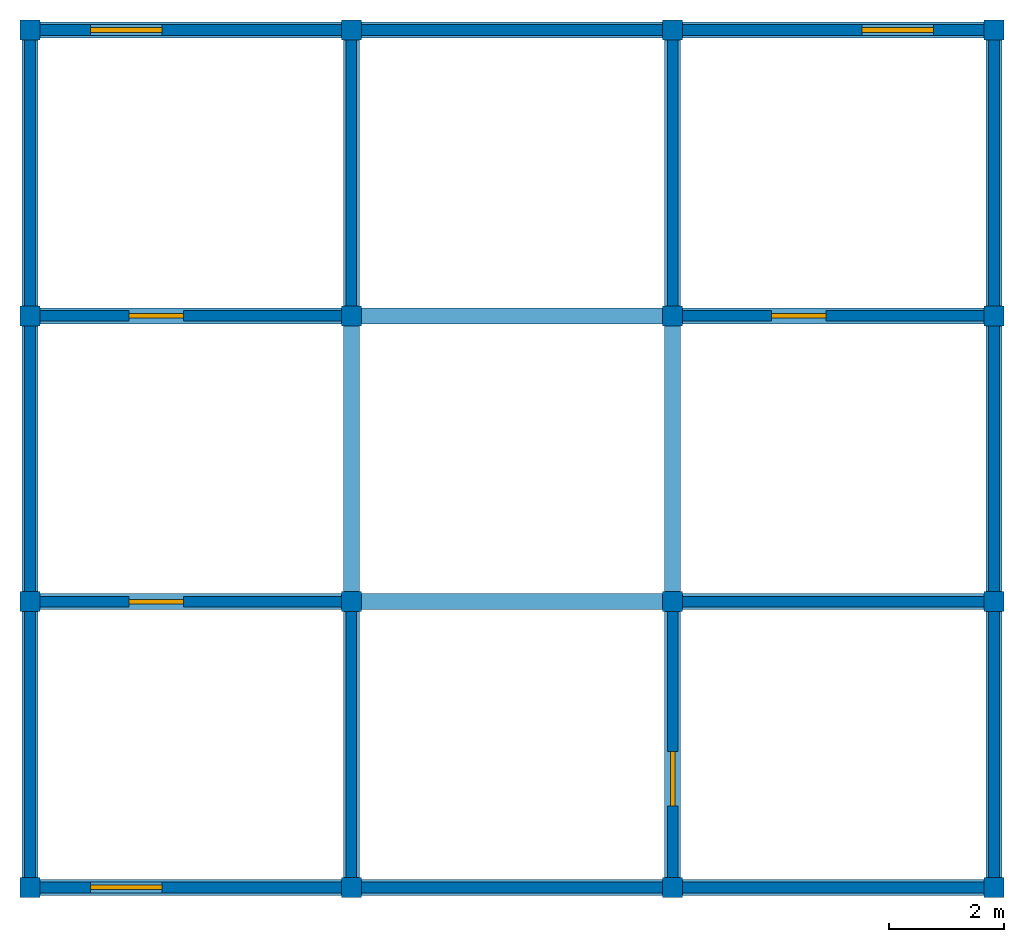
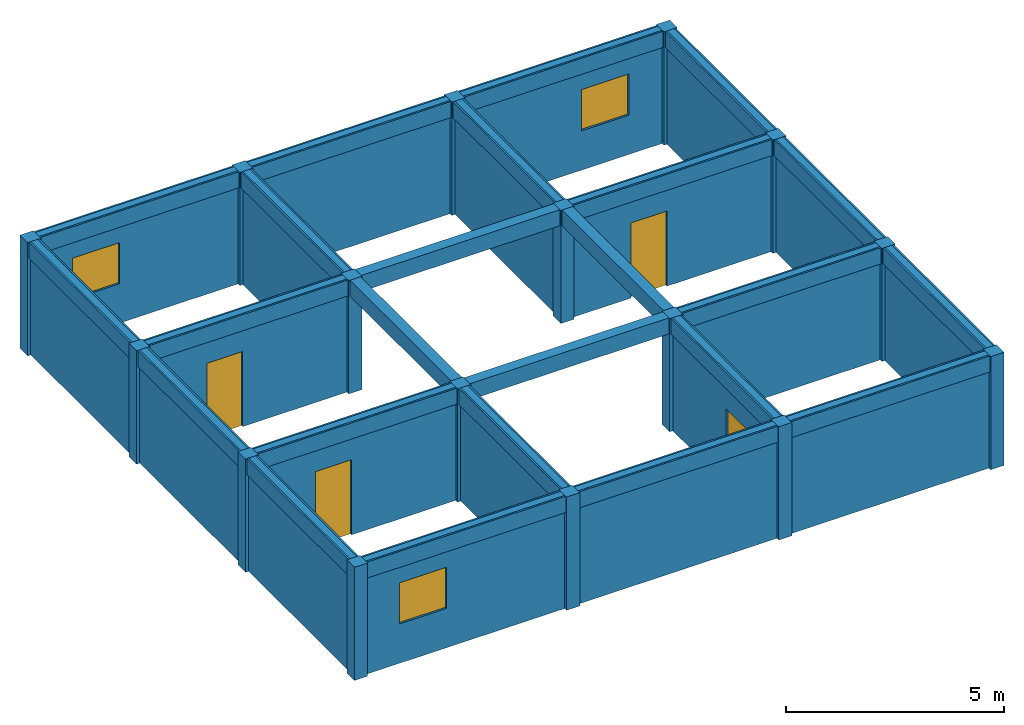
# One storey, incomplete: 24 beams, 20 walls, 16 columns, 4 doors, 3 windows, 7 openings.
"""IFC4X3 building model written with IfcOpenShell, lengths in metres."""

from ifc_helpers import new_model, si_unit, frame, origin_with_axes, origin_2d, place, context, project, spatial, rectangle, extrude, material, element, fill, save


model = new_model("IFC4X3")

# Units and contexts
model_context = context("Model", 3, precision=1e-05, world=origin_with_axes())
ifc_project = project(units=[si_unit("LENGTHUNIT", "METRE"), si_unit("AREAUNIT", "SQUARE_METRE"), si_unit("VOLUMEUNIT", "CUBIC_METRE")], contexts=[model_context])

# Site, building, storey
site = spatial("IfcSite", under=ifc_project, Name="Puerto Montt Parcel", CompositionType="ELEMENT")
building = spatial("IfcBuilding", under=site, Name="Apex Hub", CompositionType="ELEMENT")
storey = spatial("IfcBuildingStorey", under=building, Name="Level 7", CompositionType="ELEMENT")

# Columns
ifc_material_1 = material(Name="Timber")
column_1_placement = place(None, frame((-8.415, -7.485, 19.003), z_axis=(0.0, 0.0, 1.0), x_axis=(1.0, 0.0, 0.0)))
element("IfcColumn", 1, at=column_1_placement, inside=storey, material=ifc_material_1, Name="Column 7.1", ObjectType="Structural Column", PredefinedType="NOTDEFINED", context=model_context, shape_type="SweptSolid", body=[
    extrude(rectangle(XDim=0.35, YDim=0.35, at=origin_2d()), origin_with_axes(), (0.0, 0.0, 1.0), 3.167),
])
column_2_placement = place(None, frame((-8.415, -2.495, 19.003), z_axis=(0.0, 0.0, 1.0), x_axis=(1.0, 0.0, 0.0)))
element("IfcColumn", 2, at=column_2_placement, inside=storey, material=ifc_material_1, Name="Column 7.2", ObjectType="Facade Column", PredefinedType="NOTDEFINED", context=model_context, shape_type="SweptSolid", body=[
    extrude(rectangle(XDim=0.35, YDim=0.35, at=origin_2d()), origin_with_axes(), (0.0, 0.0, 1.0), 3.167),
])
column_3_placement = place(None, frame((-8.415, 2.495, 19.003), z_axis=(0.0, 0.0, 1.0), x_axis=(1.0, 0.0, 0.0)))
element("IfcColumn", 3, at=column_3_placement, inside=storey, material=ifc_material_1, Name="Column 7.3", ObjectType="Core Column", PredefinedType="NOTDEFINED", context=model_context, shape_type="SweptSolid", body=[
    extrude(rectangle(XDim=0.35, YDim=0.35, at=origin_2d()), origin_with_axes(), (0.0, 0.0, 1.0), 3.167),
])
column_4_placement = place(None, frame((-8.415, 7.485, 19.003), z_axis=(0.0, 0.0, 1.0), x_axis=(1.0, 0.0, 0.0)))
element("IfcColumn", 4, at=column_4_placement, inside=storey, material=ifc_material_1, Name="Column 7.4", ObjectType="Facade Column", PredefinedType="NOTDEFINED", context=model_context, shape_type="SweptSolid", body=[
    extrude(rectangle(XDim=0.35, YDim=0.35, at=origin_2d()), origin_with_axes(), (0.0, 0.0, 1.0), 3.167),
])
column_5_placement = place(None, frame((-2.805, -7.485, 19.003), z_axis=(0.0, 0.0, 1.0), x_axis=(1.0, 0.0, 0.0)))
element("IfcColumn", 5, at=column_5_placement, inside=storey, material=ifc_material_1, Name="Column 7.5", ObjectType="Facade Column", PredefinedType="COLUMN", context=model_context, shape_type="SweptSolid", body=[
    extrude(rectangle(XDim=0.35, YDim=0.35, at=origin_2d()), origin_with_axes(), (0.0, 0.0, 1.0), 3.167),
])
column_6_placement = place(None, frame((-2.805, -2.495, 19.003), z_axis=(0.0, 0.0, 1.0), x_axis=(1.0, 0.0, 0.0)))
element("IfcColumn", 6, at=column_6_placement, inside=storey, material=ifc_material_1, Name="Column 7.6", ObjectType="Core Column", PredefinedType="USERDEFINED", context=model_context, shape_type="SweptSolid", body=[
    extrude(rectangle(XDim=0.35, YDim=0.35, at=origin_2d()), origin_with_axes(), (0.0, 0.0, 1.0), 3.167),
])
column_7_placement = place(None, frame((-2.805, 2.495, 19.003), z_axis=(0.0, 0.0, 1.0), x_axis=(1.0, 0.0, 0.0)))
element("IfcColumn", 7, at=column_7_placement, inside=storey, material=ifc_material_1, Name="Column 7.7", ObjectType="Core Column", PredefinedType="COLUMN", context=model_context, shape_type="SweptSolid", body=[
    extrude(rectangle(XDim=0.35, YDim=0.35, at=origin_2d()), origin_with_axes(), (0.0, 0.0, 1.0), 3.167),
])
column_8_placement = place(None, frame((-2.805, 7.485, 19.003), z_axis=(0.0, 0.0, 1.0), x_axis=(1.0, 0.0, 0.0)))
element("IfcColumn", 8, at=column_8_placement, inside=storey, material=ifc_material_1, Name="Column 7.8", ObjectType="Facade Column", PredefinedType="COLUMN", context=model_context, shape_type="SweptSolid", body=[
    extrude(rectangle(XDim=0.35, YDim=0.35, at=origin_2d()), origin_with_axes(), (0.0, 0.0, 1.0), 3.167),
])
column_9_placement = place(None, frame((2.805, -7.485, 19.003), z_axis=(0.0, 0.0, 1.0), x_axis=(1.0, 0.0, 0.0)))
element("IfcColumn", 9, at=column_9_placement, inside=storey, material=ifc_material_1, Name="Column 7.9", ObjectType="Structural Column", PredefinedType="USERDEFINED", context=model_context, shape_type="SweptSolid", body=[
    extrude(rectangle(XDim=0.35, YDim=0.35, at=origin_2d()), origin_with_axes(), (0.0, 0.0, 1.0), 3.167),
])
column_10_placement = place(None, frame((2.805, -2.495, 19.003), z_axis=(0.0, 0.0, 1.0), x_axis=(1.0, 0.0, 0.0)))
element("IfcColumn", 10, at=column_10_placement, inside=storey, material=ifc_material_1, Name="Column 7.10", ObjectType="Core Column", PredefinedType="NOTDEFINED", context=model_context, shape_type="SweptSolid", body=[
    extrude(rectangle(XDim=0.35, YDim=0.35, at=origin_2d()), origin_with_axes(), (0.0, 0.0, 1.0), 3.167),
])
column_11_placement = place(None, frame((2.805, 2.495, 19.003), z_axis=(0.0, 0.0, 1.0), x_axis=(1.0, 0.0, 0.0)))
element("IfcColumn", 11, at=column_11_placement, inside=storey, material=ifc_material_1, Name="Column 7.11", ObjectType="Corner Column", PredefinedType="USERDEFINED", context=model_context, shape_type="SweptSolid", body=[
    extrude(rectangle(XDim=0.35, YDim=0.35, at=origin_2d()), origin_with_axes(), (0.0, 0.0, 1.0), 3.167),
])
column_12_placement = place(None, frame((2.805, 7.485, 19.003), z_axis=(0.0, 0.0, 1.0), x_axis=(1.0, 0.0, 0.0)))
element("IfcColumn", 12, at=column_12_placement, inside=storey, material=ifc_material_1, Name="Column 7.12", ObjectType="Corner Column", PredefinedType="NOTDEFINED", context=model_context, shape_type="SweptSolid", body=[
    extrude(rectangle(XDim=0.35, YDim=0.35, at=origin_2d()), origin_with_axes(), (0.0, 0.0, 1.0), 3.167),
])
column_13_placement = place(None, frame((8.415, -7.485, 19.003), z_axis=(0.0, 0.0, 1.0), x_axis=(1.0, 0.0, 0.0)))
element("IfcColumn", 13, at=column_13_placement, inside=storey, material=ifc_material_1, Name="Column 7.13", ObjectType="Core Column", PredefinedType="NOTDEFINED", context=model_context, shape_type="SweptSolid", body=[
    extrude(rectangle(XDim=0.35, YDim=0.35, at=origin_2d()), origin_with_axes(), (0.0, 0.0, 1.0), 3.167),
])
column_14_placement = place(None, frame((8.415, -2.495, 19.003), z_axis=(0.0, 0.0, 1.0), x_axis=(1.0, 0.0, 0.0)))
element("IfcColumn", 14, at=column_14_placement, inside=storey, material=ifc_material_1, Name="Column 7.14", ObjectType="Core Column", PredefinedType="USERDEFINED", context=model_context, shape_type="SweptSolid", body=[
    extrude(rectangle(XDim=0.35, YDim=0.35, at=origin_2d()), origin_with_axes(), (0.0, 0.0, 1.0), 3.167),
])
column_15_placement = place(None, frame((8.415, 2.495, 19.003), z_axis=(0.0, 0.0, 1.0), x_axis=(1.0, 0.0, 0.0)))
element("IfcColumn", 15, at=column_15_placement, inside=storey, material=ifc_material_1, Name="Column 7.15", ObjectType="Core Column", PredefinedType="COLUMN", context=model_context, shape_type="SweptSolid", body=[
    extrude(rectangle(XDim=0.35, YDim=0.35, at=origin_2d()), origin_with_axes(), (0.0, 0.0, 1.0), 3.167),
])
column_16_placement = place(None, frame((8.415, 7.485, 19.003), z_axis=(0.0, 0.0, 1.0), x_axis=(1.0, 0.0, 0.0)))
element("IfcColumn", 16, at=column_16_placement, inside=storey, material=ifc_material_1, Name="Column 7.16", ObjectType="Structural Column", PredefinedType="PILASTER", context=model_context, shape_type="SweptSolid", body=[
    extrude(rectangle(XDim=0.35, YDim=0.35, at=origin_2d()), origin_with_axes(), (0.0, 0.0, 1.0), 3.167),
])

# Beams
ifc_material_2 = material(Name="Concrete")
beam_1_placement = place(None, frame((-5.61, -7.485, 21.72), z_axis=(0.0, 0.0, 1.0), x_axis=(1.0, 0.0, 0.0)))
element("IfcBeam", 17, at=beam_1_placement, inside=storey, material=ifc_material_2, Name="Beam 7.1", ObjectType="Ridge Beam", PredefinedType="BEAM", context=model_context, shape_type="SweptSolid", body=[
    extrude(rectangle(XDim=5.61, YDim=0.28, at=origin_2d()), origin_with_axes(), (0.0, 0.0, 1.0), 0.45),
])
beam_2_placement = place(None, frame((0.0, -7.485, 21.72), z_axis=(0.0, 0.0, 1.0), x_axis=(1.0, 0.0, 0.0)))
element("IfcBeam", 18, at=beam_2_placement, inside=storey, material=ifc_material_2, Name="Beam 7.2", ObjectType="Transfer Beam", PredefinedType="T_BEAM", context=model_context, shape_type="SweptSolid", body=[
    extrude(rectangle(XDim=5.61, YDim=0.28, at=origin_2d()), origin_with_axes(), (0.0, 0.0, 1.0), 0.45),
])
beam_3_placement = place(None, frame((5.61, -7.485, 21.72), z_axis=(0.0, 0.0, 1.0), x_axis=(1.0, 0.0, 0.0)))
element("IfcBeam", 19, at=beam_3_placement, inside=storey, material=ifc_material_2, Name="Beam 7.3", ObjectType="Ridge Beam", PredefinedType="JOIST", context=model_context, shape_type="SweptSolid", body=[
    extrude(rectangle(XDim=5.61, YDim=0.28, at=origin_2d()), origin_with_axes(), (0.0, 0.0, 1.0), 0.45),
])
beam_4_placement = place(None, frame((-5.61, -2.495, 21.72), z_axis=(0.0, 0.0, 1.0), x_axis=(1.0, 0.0, 0.0)))
element("IfcBeam", 20, at=beam_4_placement, inside=storey, material=ifc_material_2, Name="Beam 7.4", ObjectType="Rafter Beam", PredefinedType="BEAM", context=model_context, shape_type="SweptSolid", body=[
    extrude(rectangle(XDim=5.61, YDim=0.28, at=origin_2d()), origin_with_axes(), (0.0, 0.0, 1.0), 0.45),
])
beam_5_placement = place(None, frame((0.0, -2.495, 21.72), z_axis=(0.0, 0.0, 1.0), x_axis=(1.0, 0.0, 0.0)))
element("IfcBeam", 21, at=beam_5_placement, inside=storey, material=ifc_material_2, Name="Beam 7.5", ObjectType="Primary Beam", PredefinedType="NOTDEFINED", context=model_context, shape_type="SweptSolid", body=[
    extrude(rectangle(XDim=5.61, YDim=0.28, at=origin_2d()), origin_with_axes(), (0.0, 0.0, 1.0), 0.45),
])
beam_6_placement = place(None, frame((5.61, -2.495, 21.72), z_axis=(0.0, 0.0, 1.0), x_axis=(1.0, 0.0, 0.0)))
element("IfcBeam", 22, at=beam_6_placement, inside=storey, material=ifc_material_2, Name="Beam 7.6", ObjectType="Transfer Beam", PredefinedType="JOIST", context=model_context, shape_type="SweptSolid", body=[
    extrude(rectangle(XDim=5.61, YDim=0.28, at=origin_2d()), origin_with_axes(), (0.0, 0.0, 1.0), 0.45),
])
beam_7_placement = place(None, frame((-5.61, 2.495, 21.72), z_axis=(0.0, 0.0, 1.0), x_axis=(1.0, 0.0, 0.0)))
element("IfcBeam", 23, at=beam_7_placement, inside=storey, material=ifc_material_2, Name="Beam 7.7", ObjectType="Secondary Beam", PredefinedType="USERDEFINED", context=model_context, shape_type="SweptSolid", body=[
    extrude(rectangle(XDim=5.61, YDim=0.28, at=origin_2d()), origin_with_axes(), (0.0, 0.0, 1.0), 0.45),
])
beam_8_placement = place(None, frame((0.0, 2.495, 21.72), z_axis=(0.0, 0.0, 1.0), x_axis=(1.0, 0.0, 0.0)))
element("IfcBeam", 24, at=beam_8_placement, inside=storey, material=ifc_material_2, Name="Beam 7.8", ObjectType="Rafter Beam", PredefinedType="T_BEAM", context=model_context, shape_type="SweptSolid", body=[
    extrude(rectangle(XDim=5.61, YDim=0.28, at=origin_2d()), origin_with_axes(), (0.0, 0.0, 1.0), 0.45),
])
beam_9_placement = place(None, frame((5.61, 2.495, 21.72), z_axis=(0.0, 0.0, 1.0), x_axis=(1.0, 0.0, 0.0)))
element("IfcBeam", 25, at=beam_9_placement, inside=storey, material=ifc_material_2, Name="Beam 7.9", ObjectType="Primary Beam", PredefinedType="LINTEL", context=model_context, shape_type="SweptSolid", body=[
    extrude(rectangle(XDim=5.61, YDim=0.28, at=origin_2d()), origin_with_axes(), (0.0, 0.0, 1.0), 0.45),
])
beam_10_placement = place(None, frame((-5.61, 7.485, 21.72), z_axis=(0.0, 0.0, 1.0), x_axis=(1.0, 0.0, 0.0)))
element("IfcBeam", 26, at=beam_10_placement, inside=storey, material=ifc_material_2, Name="Beam 7.10", ObjectType="Secondary Beam", PredefinedType="NOTDEFINED", context=model_context, shape_type="SweptSolid", body=[
    extrude(rectangle(XDim=5.61, YDim=0.28, at=origin_2d()), origin_with_axes(), (0.0, 0.0, 1.0), 0.45),
])
beam_11_placement = place(None, frame((0.0, 7.485, 21.72), z_axis=(0.0, 0.0, 1.0), x_axis=(1.0, 0.0, 0.0)))
element("IfcBeam", 27, at=beam_11_placement, inside=storey, material=ifc_material_2, Name="Beam 7.11", ObjectType="Transfer Beam", PredefinedType="T_BEAM", context=model_context, shape_type="SweptSolid", body=[
    extrude(rectangle(XDim=5.61, YDim=0.28, at=origin_2d()), origin_with_axes(), (0.0, 0.0, 1.0), 0.45),
])
beam_12_placement = place(None, frame((5.61, 7.485, 21.72), z_axis=(0.0, 0.0, 1.0), x_axis=(1.0, 0.0, 0.0)))
element("IfcBeam", 28, at=beam_12_placement, inside=storey, material=ifc_material_2, Name="Beam 7.12", ObjectType="Rafter Beam", PredefinedType="NOTDEFINED", context=model_context, shape_type="SweptSolid", body=[
    extrude(rectangle(XDim=5.61, YDim=0.28, at=origin_2d()), origin_with_axes(), (0.0, 0.0, 1.0), 0.45),
])
beam_13_placement = place(None, frame((-8.415, -4.99, 21.72), z_axis=(0.0, 0.0, 1.0), x_axis=(0.0, 1.0, 0.0)))
element("IfcBeam", 29, at=beam_13_placement, inside=storey, material=ifc_material_2, Name="Beam 7.13", ObjectType="Secondary Beam", PredefinedType="LINTEL", context=model_context, shape_type="SweptSolid", body=[
    extrude(rectangle(XDim=4.99, YDim=0.28, at=origin_2d()), origin_with_axes(), (0.0, 0.0, 1.0), 0.45),
])
beam_14_placement = place(None, frame((-8.415, 0.0, 21.72), z_axis=(0.0, 0.0, 1.0), x_axis=(0.0, 1.0, 0.0)))
element("IfcBeam", 30, at=beam_14_placement, inside=storey, material=ifc_material_2, Name="Beam 7.14", ObjectType="Rafter Beam", PredefinedType="SPANDREL", context=model_context, shape_type="SweptSolid", body=[
    extrude(rectangle(XDim=4.99, YDim=0.28, at=origin_2d()), origin_with_axes(), (0.0, 0.0, 1.0), 0.45),
])
beam_15_placement = place(None, frame((-8.415, 4.99, 21.72), z_axis=(0.0, 0.0, 1.0), x_axis=(0.0, 1.0, 0.0)))
element("IfcBeam", 31, at=beam_15_placement, inside=storey, material=ifc_material_2, Name="Beam 7.15", ObjectType="Transfer Beam", PredefinedType="HOLLOWCORE", context=model_context, shape_type="SweptSolid", body=[
    extrude(rectangle(XDim=4.99, YDim=0.28, at=origin_2d()), origin_with_axes(), (0.0, 0.0, 1.0), 0.45),
])
beam_16_placement = place(None, frame((-2.805, -4.99, 21.72), z_axis=(0.0, 0.0, 1.0), x_axis=(0.0, 1.0, 0.0)))
element("IfcBeam", 32, at=beam_16_placement, inside=storey, material=ifc_material_2, Name="Beam 7.16", ObjectType="Primary Beam", PredefinedType="LINTEL", context=model_context, shape_type="SweptSolid", body=[
    extrude(rectangle(XDim=4.99, YDim=0.28, at=origin_2d()), origin_with_axes(), (0.0, 0.0, 1.0), 0.45),
])
beam_17_placement = place(None, frame((-2.805, 0.0, 21.72), z_axis=(0.0, 0.0, 1.0), x_axis=(0.0, 1.0, 0.0)))
element("IfcBeam", 33, at=beam_17_placement, inside=storey, material=ifc_material_2, Name="Beam 7.17", ObjectType="Transfer Beam", PredefinedType="JOIST", context=model_context, shape_type="SweptSolid", body=[
    extrude(rectangle(XDim=4.99, YDim=0.28, at=origin_2d()), origin_with_axes(), (0.0, 0.0, 1.0), 0.45),
])
beam_18_placement = place(None, frame((-2.805, 4.99, 21.72), z_axis=(0.0, 0.0, 1.0), x_axis=(0.0, 1.0, 0.0)))
element("IfcBeam", 34, at=beam_18_placement, inside=storey, material=ifc_material_2, Name="Beam 7.18", ObjectType="Ridge Beam", PredefinedType="NOTDEFINED", context=model_context, shape_type="SweptSolid", body=[
    extrude(rectangle(XDim=4.99, YDim=0.28, at=origin_2d()), origin_with_axes(), (0.0, 0.0, 1.0), 0.45),
])
beam_19_placement = place(None, frame((2.805, -4.99, 21.72), z_axis=(0.0, 0.0, 1.0), x_axis=(0.0, 1.0, 0.0)))
element("IfcBeam", 35, at=beam_19_placement, inside=storey, material=ifc_material_2, Name="Beam 7.19", ObjectType="Secondary Beam", PredefinedType="T_BEAM", context=model_context, shape_type="SweptSolid", body=[
    extrude(rectangle(XDim=4.99, YDim=0.28, at=origin_2d()), origin_with_axes(), (0.0, 0.0, 1.0), 0.45),
])
beam_20_placement = place(None, frame((2.805, 0.0, 21.72), z_axis=(0.0, 0.0, 1.0), x_axis=(0.0, 1.0, 0.0)))
element("IfcBeam", 36, at=beam_20_placement, inside=storey, material=ifc_material_2, Name="Beam 7.20", ObjectType="Transfer Beam", PredefinedType="USERDEFINED", context=model_context, shape_type="SweptSolid", body=[
    extrude(rectangle(XDim=4.99, YDim=0.28, at=origin_2d()), origin_with_axes(), (0.0, 0.0, 1.0), 0.45),
])
beam_21_placement = place(None, frame((2.805, 4.99, 21.72), z_axis=(0.0, 0.0, 1.0), x_axis=(0.0, 1.0, 0.0)))
element("IfcBeam", 37, at=beam_21_placement, inside=storey, material=ifc_material_2, Name="Beam 7.21", ObjectType="Ridge Beam", PredefinedType="HOLLOWCORE", context=model_context, shape_type="SweptSolid", body=[
    extrude(rectangle(XDim=4.99, YDim=0.28, at=origin_2d()), origin_with_axes(), (0.0, 0.0, 1.0), 0.45),
])
beam_22_placement = place(None, frame((8.415, -4.99, 21.72), z_axis=(0.0, 0.0, 1.0), x_axis=(0.0, 1.0, 0.0)))
element("IfcBeam", 38, at=beam_22_placement, inside=storey, material=ifc_material_2, Name="Beam 7.22", ObjectType="Secondary Beam", PredefinedType="BEAM", context=model_context, shape_type="SweptSolid", body=[
    extrude(rectangle(XDim=4.99, YDim=0.28, at=origin_2d()), origin_with_axes(), (0.0, 0.0, 1.0), 0.45),
])
beam_23_placement = place(None, frame((8.415, 0.0, 21.72), z_axis=(0.0, 0.0, 1.0), x_axis=(0.0, 1.0, 0.0)))
element("IfcBeam", 39, at=beam_23_placement, inside=storey, material=ifc_material_2, Name="Beam 7.23", ObjectType="Ridge Beam", PredefinedType="SPANDREL", context=model_context, shape_type="SweptSolid", body=[
    extrude(rectangle(XDim=4.99, YDim=0.28, at=origin_2d()), origin_with_axes(), (0.0, 0.0, 1.0), 0.45),
])
beam_24_placement = place(None, frame((8.415, 4.99, 21.72), z_axis=(0.0, 0.0, 1.0), x_axis=(0.0, 1.0, 0.0)))
element("IfcBeam", 40, at=beam_24_placement, inside=storey, material=ifc_material_2, Name="Beam 7.24", ObjectType="Rafter Beam", PredefinedType="NOTDEFINED", context=model_context, shape_type="SweptSolid", body=[
    extrude(rectangle(XDim=4.99, YDim=0.28, at=origin_2d()), origin_with_axes(), (0.0, 0.0, 1.0), 0.45),
])

# Wall, opening, door
wall_1_placement = place(None, frame((-5.61, -2.495, 19.003), z_axis=(0.0, 0.0, 1.0), x_axis=(1.0, 0.0, 0.0)))
wall_1 = element("IfcWall", 41, at=wall_1_placement, inside=storey, material=ifc_material_2, Name="Wall 7.1", ObjectType="Corridor Partition", PredefinedType="NOTDEFINED", context=model_context, shape_type="SweptSolid", body=[
    extrude(rectangle(XDim=5.61, YDim=0.185952, at=origin_2d()), origin_with_axes(), (0.0, 0.0, 1.0), 3.167),
])
opening_1_placement = place(None, frame((-6.21, -2.495, 19.003), z_axis=(0.0, 0.0, 1.0), x_axis=(1.0, 0.0, 0.0)))
opening_1 = element("IfcOpeningElement", 42, at=opening_1_placement, cuts=wall_1, Name="Door opening 7.1", ObjectType="Door Opening", PredefinedType="OPENING", context=model_context, shape_type="SweptSolid", body=[
    extrude(rectangle(XDim=0.95, YDim=0.265952, at=origin_2d()), origin_with_axes(), (0.0, 0.0, 1.0), 2.1),
])
door_1_placement = place(None, frame((-6.21, -2.495, 19.003), z_axis=(0.0, 0.0, 1.0), x_axis=(1.0, 0.0, 0.0)))
door_1 = element("IfcDoor", 43, at=door_1_placement, inside=storey, Name="Door 7.1", ObjectType="Fire Door", OverallHeight=2.1, OverallWidth=0.95, context=model_context, shape_type="SweptSolid", body=[
    extrude(rectangle(XDim=0.95, YDim=0.08, at=origin_2d()), origin_with_axes(), (0.0, 0.0, 1.0), 2.1),
])
fill(opening_1, door_1)

# Wall
wall_2_placement = place(None, frame((-2.805, -4.99, 19.003), z_axis=(0.0, 0.0, 1.0), x_axis=(0.0, 1.0, 0.0)))
element("IfcWall", 44, at=wall_2_placement, inside=storey, material=ifc_material_2, Name="Wall 7.2", ObjectType="Corridor Partition", PredefinedType="POLYGONAL", context=model_context, shape_type="SweptSolid", body=[
    extrude(rectangle(XDim=4.99, YDim=0.185952, at=origin_2d()), origin_with_axes(), (0.0, 0.0, 1.0), 3.167),
])

# Wall, opening, window
wall_3_placement = place(None, frame((-5.61, -7.485, 19.003), z_axis=(0.0, 0.0, 1.0), x_axis=(1.0, 0.0, 0.0)))
wall_3 = element("IfcWall", 45, at=wall_3_placement, inside=storey, material=ifc_material_2, Name="Wall 7.3", ObjectType="Exterior Wall", PredefinedType="POLYGONAL", context=model_context, shape_type="SweptSolid", body=[
    extrude(rectangle(XDim=5.61, YDim=0.185952, at=origin_2d()), origin_with_axes(), (0.0, 0.0, 1.0), 3.167),
])
opening_2_placement = place(None, frame((-6.732, -7.485, 20.103), z_axis=(0.0, 0.0, 1.0), x_axis=(1.0, 0.0, 0.0)))
opening_2 = element("IfcOpeningElement", 46, at=opening_2_placement, cuts=wall_3, Name="Window opening 7.2", ObjectType="Window Opening", PredefinedType="OPENING", context=model_context, shape_type="SweptSolid", body=[
    extrude(rectangle(XDim=1.25, YDim=0.265952, at=origin_2d()), origin_with_axes(), (0.0, 0.0, 1.0), 1.15),
])
window_1_placement = place(None, frame((-6.732, -7.485, 20.103), z_axis=(0.0, 0.0, 1.0), x_axis=(1.0, 0.0, 0.0)))
window_1 = element("IfcWindow", 47, at=window_1_placement, inside=storey, Name="Window 7.2", ObjectType="Louvre Window", OverallHeight=1.15, OverallWidth=1.25, context=model_context, shape_type="SweptSolid", body=[
    extrude(rectangle(XDim=1.25, YDim=0.08, at=origin_2d()), origin_with_axes(), (0.0, 0.0, 1.0), 1.15),
])
fill(opening_2, window_1)

# Wall
wall_4_placement = place(None, frame((-8.415, -4.99, 19.003), z_axis=(0.0, 0.0, 1.0), x_axis=(0.0, 1.0, 0.0)))
element("IfcWall", 48, at=wall_4_placement, inside=storey, material=ifc_material_2, Name="Wall 7.4", ObjectType="Exterior Wall", PredefinedType="ELEMENTEDWALL", context=model_context, shape_type="SweptSolid", body=[
    extrude(rectangle(XDim=4.99, YDim=0.185952, at=origin_2d()), origin_with_axes(), (0.0, 0.0, 1.0), 3.167),
])

# Wall, opening, door
ifc_material_3 = material(Name="CLT")
wall_5_placement = place(None, frame((2.805, -4.99, 19.003), z_axis=(0.0, 0.0, 1.0), x_axis=(0.0, 1.0, 0.0)))
wall_5 = element("IfcWall", 49, at=wall_5_placement, inside=storey, material=ifc_material_3, Name="Wall 7.5", ObjectType="Corridor Partition", PredefinedType="PARAPET", context=model_context, shape_type="SweptSolid", body=[
    extrude(rectangle(XDim=4.99, YDim=0.185952, at=origin_2d()), origin_with_axes(), (0.0, 0.0, 1.0), 3.167),
])
opening_3_placement = place(None, frame((2.805, -5.59, 19.003), z_axis=(0.0, 0.0, 1.0), x_axis=(0.0, 1.0, 0.0)))
opening_3 = element("IfcOpeningElement", 50, at=opening_3_placement, cuts=wall_5, Name="Door opening 7.3", ObjectType="Door Opening", PredefinedType="OPENING", context=model_context, shape_type="SweptSolid", body=[
    extrude(rectangle(XDim=0.95, YDim=0.265952, at=origin_2d()), origin_with_axes(), (0.0, 0.0, 1.0), 2.1),
])
door_2_placement = place(None, frame((2.805, -5.59, 19.003), z_axis=(0.0, 0.0, 1.0), x_axis=(0.0, 1.0, 0.0)))
door_2 = element("IfcDoor", 51, at=door_2_placement, inside=storey, Name="Door 7.3", ObjectType="Fire Door", OverallHeight=2.1, OverallWidth=0.95, context=model_context, shape_type="SweptSolid", body=[
    extrude(rectangle(XDim=0.95, YDim=0.08, at=origin_2d()), origin_with_axes(), (0.0, 0.0, 1.0), 2.1),
])
fill(opening_3, door_2)

# Walls
wall_6_placement = place(None, frame((0.0, -7.485, 19.003), z_axis=(0.0, 0.0, 1.0), x_axis=(1.0, 0.0, 0.0)))
element("IfcWall", 52, at=wall_6_placement, inside=storey, material=ifc_material_3, Name="Wall 7.6", ObjectType="Exterior Wall", PredefinedType="PLUMBINGWALL", context=model_context, shape_type="SweptSolid", body=[
    extrude(rectangle(XDim=5.61, YDim=0.185952, at=origin_2d()), origin_with_axes(), (0.0, 0.0, 1.0), 3.167),
])
wall_7_placement = place(None, frame((5.61, -2.495, 19.003), z_axis=(0.0, 0.0, 1.0), x_axis=(1.0, 0.0, 0.0)))
element("IfcWall", 53, at=wall_7_placement, inside=storey, material=ifc_material_2, Name="Wall 7.7", ObjectType="Corridor Partition", PredefinedType="SOLIDWALL", context=model_context, shape_type="SweptSolid", body=[
    extrude(rectangle(XDim=5.61, YDim=0.185952, at=origin_2d()), origin_with_axes(), (0.0, 0.0, 1.0), 3.167),
])
wall_8_placement = place(None, frame((8.415, -4.99, 19.003), z_axis=(0.0, 0.0, 1.0), x_axis=(0.0, 1.0, 0.0)))
element("IfcWall", 54, at=wall_8_placement, inside=storey, material=ifc_material_3, Name="Wall 7.8", ObjectType="Exterior Wall", PredefinedType="ELEMENTEDWALL", context=model_context, shape_type="SweptSolid", body=[
    extrude(rectangle(XDim=4.99, YDim=0.185952, at=origin_2d()), origin_with_axes(), (0.0, 0.0, 1.0), 3.167),
])
wall_9_placement = place(None, frame((5.61, -7.485, 19.003), z_axis=(0.0, 0.0, 1.0), x_axis=(1.0, 0.0, 0.0)))
element("IfcWall", 55, at=wall_9_placement, inside=storey, material=ifc_material_3, Name="Wall 7.9", ObjectType="Exterior Wall", PredefinedType="PARTITIONING", context=model_context, shape_type="SweptSolid", body=[
    extrude(rectangle(XDim=5.61, YDim=0.185952, at=origin_2d()), origin_with_axes(), (0.0, 0.0, 1.0), 3.167),
])

# Wall, opening, door
ifc_material_4 = material(Name="Brick")
wall_10_placement = place(None, frame((-5.61, 2.495, 19.003), z_axis=(0.0, 0.0, 1.0), x_axis=(1.0, 0.0, 0.0)))
wall_10 = element("IfcWall", 56, at=wall_10_placement, inside=storey, material=ifc_material_4, Name="Wall 7.10", ObjectType="Corridor Partition", PredefinedType="NOTDEFINED", context=model_context, shape_type="SweptSolid", body=[
    extrude(rectangle(XDim=5.61, YDim=0.185952, at=origin_2d()), origin_with_axes(), (0.0, 0.0, 1.0), 3.167),
])
opening_4_placement = place(None, frame((-6.21, 2.495, 19.003), z_axis=(0.0, 0.0, 1.0), x_axis=(1.0, 0.0, 0.0)))
opening_4 = element("IfcOpeningElement", 57, at=opening_4_placement, cuts=wall_10, Name="Door opening 7.4", ObjectType="Door Opening", PredefinedType="OPENING", context=model_context, shape_type="SweptSolid", body=[
    extrude(rectangle(XDim=0.95, YDim=0.265952, at=origin_2d()), origin_with_axes(), (0.0, 0.0, 1.0), 2.1),
])
door_3_placement = place(None, frame((-6.21, 2.495, 19.003), z_axis=(0.0, 0.0, 1.0), x_axis=(1.0, 0.0, 0.0)))
door_3 = element("IfcDoor", 58, at=door_3_placement, inside=storey, Name="Door 7.4", ObjectType="Entry Door", OverallHeight=2.1, OverallWidth=0.95, context=model_context, shape_type="SweptSolid", body=[
    extrude(rectangle(XDim=0.95, YDim=0.08, at=origin_2d()), origin_with_axes(), (0.0, 0.0, 1.0), 2.1),
])
fill(opening_4, door_3)

# Wall
ifc_material_5 = material(Name="Gypsum")
wall_11_placement = place(None, frame((-8.415, 0.0, 19.003), z_axis=(0.0, 0.0, 1.0), x_axis=(0.0, 1.0, 0.0)))
element("IfcWall", 59, at=wall_11_placement, inside=storey, material=ifc_material_5, Name="Wall 7.11", ObjectType="Exterior Wall", PredefinedType="SHEAR", context=model_context, shape_type="SweptSolid", body=[
    extrude(rectangle(XDim=4.99, YDim=0.185952, at=origin_2d()), origin_with_axes(), (0.0, 0.0, 1.0), 3.167),
])

# Wall, opening, door
wall_12_placement = place(None, frame((5.61, 2.495, 19.003), z_axis=(0.0, 0.0, 1.0), x_axis=(1.0, 0.0, 0.0)))
wall_12 = element("IfcWall", 60, at=wall_12_placement, inside=storey, material=ifc_material_4, Name="Wall 7.12", ObjectType="Corridor Partition", PredefinedType="SOLIDWALL", context=model_context, shape_type="SweptSolid", body=[
    extrude(rectangle(XDim=5.61, YDim=0.185952, at=origin_2d()), origin_with_axes(), (0.0, 0.0, 1.0), 3.167),
])
opening_5_placement = place(None, frame((5.01, 2.495, 19.003), z_axis=(0.0, 0.0, 1.0), x_axis=(1.0, 0.0, 0.0)))
opening_5 = element("IfcOpeningElement", 61, at=opening_5_placement, cuts=wall_12, Name="Door opening 7.6", ObjectType="Door Opening", PredefinedType="OPENING", context=model_context, shape_type="SweptSolid", body=[
    extrude(rectangle(XDim=0.95, YDim=0.265952, at=origin_2d()), origin_with_axes(), (0.0, 0.0, 1.0), 2.1),
])
door_4_placement = place(None, frame((5.01, 2.495, 19.003), z_axis=(0.0, 0.0, 1.0), x_axis=(1.0, 0.0, 0.0)))
door_4 = element("IfcDoor", 62, at=door_4_placement, inside=storey, Name="Door 7.6", ObjectType="Entry Door", OverallHeight=2.1, OverallWidth=0.95, context=model_context, shape_type="SweptSolid", body=[
    extrude(rectangle(XDim=0.95, YDim=0.08, at=origin_2d()), origin_with_axes(), (0.0, 0.0, 1.0), 2.1),
])
fill(opening_5, door_4)

# Wall
wall_13_placement = place(None, frame((8.415, 0.0, 19.003), z_axis=(0.0, 0.0, 1.0), x_axis=(0.0, 1.0, 0.0)))
element("IfcWall", 63, at=wall_13_placement, inside=storey, material=ifc_material_5, Name="Wall 7.13", ObjectType="Exterior Wall", PredefinedType="MOVABLE", context=model_context, shape_type="SweptSolid", body=[
    extrude(rectangle(XDim=4.99, YDim=0.185952, at=origin_2d()), origin_with_axes(), (0.0, 0.0, 1.0), 3.167),
])

# Wall, opening, window
wall_14_placement = place(None, frame((-5.61, 7.485, 19.003), z_axis=(0.0, 0.0, 1.0), x_axis=(1.0, 0.0, 0.0)))
wall_14 = element("IfcWall", 64, at=wall_14_placement, inside=storey, material=ifc_material_3, Name="Wall 7.14", ObjectType="Exterior Wall", PredefinedType="ELEMENTEDWALL", context=model_context, shape_type="SweptSolid", body=[
    extrude(rectangle(XDim=5.61, YDim=0.185952, at=origin_2d()), origin_with_axes(), (0.0, 0.0, 1.0), 3.167),
])
opening_6_placement = place(None, frame((-6.732, 7.485, 20.103), z_axis=(0.0, 0.0, 1.0), x_axis=(1.0, 0.0, 0.0)))
opening_6 = element("IfcOpeningElement", 65, at=opening_6_placement, cuts=wall_14, Name="Window opening 7.5", ObjectType="Window Opening", PredefinedType="OPENING", context=model_context, shape_type="SweptSolid", body=[
    extrude(rectangle(XDim=1.25, YDim=0.265952, at=origin_2d()), origin_with_axes(), (0.0, 0.0, 1.0), 1.15),
])
window_2_placement = place(None, frame((-6.732, 7.485, 20.103), z_axis=(0.0, 0.0, 1.0), x_axis=(1.0, 0.0, 0.0)))
window_2 = element("IfcWindow", 66, at=window_2_placement, inside=storey, Name="Window 7.5", ObjectType="Operable Window", OverallHeight=1.15, OverallWidth=1.25, context=model_context, shape_type="SweptSolid", body=[
    extrude(rectangle(XDim=1.25, YDim=0.08, at=origin_2d()), origin_with_axes(), (0.0, 0.0, 1.0), 1.15),
])
fill(opening_6, window_2)

# Walls
wall_15_placement = place(None, frame((-2.805, 4.99, 19.003), z_axis=(0.0, 0.0, 1.0), x_axis=(0.0, 1.0, 0.0)))
element("IfcWall", 67, at=wall_15_placement, inside=storey, material=ifc_material_2, Name="Wall 7.15", ObjectType="Corridor Partition", PredefinedType="SOLIDWALL", context=model_context, shape_type="SweptSolid", body=[
    extrude(rectangle(XDim=4.99, YDim=0.185952, at=origin_2d()), origin_with_axes(), (0.0, 0.0, 1.0), 3.167),
])
wall_16_placement = place(None, frame((-8.415, 4.99, 19.003), z_axis=(0.0, 0.0, 1.0), x_axis=(0.0, 1.0, 0.0)))
element("IfcWall", 68, at=wall_16_placement, inside=storey, material=ifc_material_5, Name="Wall 7.16", ObjectType="Exterior Wall", PredefinedType="SHEAR", context=model_context, shape_type="SweptSolid", body=[
    extrude(rectangle(XDim=4.99, YDim=0.185952, at=origin_2d()), origin_with_axes(), (0.0, 0.0, 1.0), 3.167),
])
wall_17_placement = place(None, frame((0.0, 7.485, 19.003), z_axis=(0.0, 0.0, 1.0), x_axis=(1.0, 0.0, 0.0)))
element("IfcWall", 69, at=wall_17_placement, inside=storey, material=ifc_material_3, Name="Wall 7.17", ObjectType="Exterior Wall", PredefinedType="PARAPET", context=model_context, shape_type="SweptSolid", body=[
    extrude(rectangle(XDim=5.61, YDim=0.185952, at=origin_2d()), origin_with_axes(), (0.0, 0.0, 1.0), 3.167),
])
wall_18_placement = place(None, frame((2.805, 4.99, 19.003), z_axis=(0.0, 0.0, 1.0), x_axis=(0.0, 1.0, 0.0)))
element("IfcWall", 70, at=wall_18_placement, inside=storey, material=ifc_material_4, Name="Wall 7.18", ObjectType="Corridor Partition", PredefinedType="ELEMENTEDWALL", context=model_context, shape_type="SweptSolid", body=[
    extrude(rectangle(XDim=4.99, YDim=0.185952, at=origin_2d()), origin_with_axes(), (0.0, 0.0, 1.0), 3.167),
])

# Wall, opening, window
wall_19_placement = place(None, frame((5.61, 7.485, 19.003), z_axis=(0.0, 0.0, 1.0), x_axis=(1.0, 0.0, 0.0)))
wall_19 = element("IfcWall", 71, at=wall_19_placement, inside=storey, material=ifc_material_4, Name="Wall 7.19", ObjectType="Exterior Wall", PredefinedType="POLYGONAL", context=model_context, shape_type="SweptSolid", body=[
    extrude(rectangle(XDim=5.61, YDim=0.185952, at=origin_2d()), origin_with_axes(), (0.0, 0.0, 1.0), 3.167),
])
opening_7_placement = place(None, frame((6.732, 7.485, 20.103), z_axis=(0.0, 0.0, 1.0), x_axis=(1.0, 0.0, 0.0)))
opening_7 = element("IfcOpeningElement", 72, at=opening_7_placement, cuts=wall_19, Name="Window opening 7.7", ObjectType="Window Opening", PredefinedType="OPENING", context=model_context, shape_type="SweptSolid", body=[
    extrude(rectangle(XDim=1.25, YDim=0.265952, at=origin_2d()), origin_with_axes(), (0.0, 0.0, 1.0), 1.15),
])
window_3_placement = place(None, frame((6.732, 7.485, 20.103), z_axis=(0.0, 0.0, 1.0), x_axis=(1.0, 0.0, 0.0)))
window_3 = element("IfcWindow", 73, at=window_3_placement, inside=storey, Name="Window 7.7", ObjectType="Louvre Window", OverallHeight=1.15, OverallWidth=1.25, context=model_context, shape_type="SweptSolid", body=[
    extrude(rectangle(XDim=1.25, YDim=0.08, at=origin_2d()), origin_with_axes(), (0.0, 0.0, 1.0), 1.15),
])
fill(opening_7, window_3)

# Wall
wall_20_placement = place(None, frame((8.415, 4.99, 19.003), z_axis=(0.0, 0.0, 1.0), x_axis=(0.0, 1.0, 0.0)))
element("IfcWall", 74, at=wall_20_placement, inside=storey, material=ifc_material_2, Name="Wall 7.20", ObjectType="Exterior Wall", PredefinedType="PARTITIONING", context=model_context, shape_type="SweptSolid", body=[
    extrude(rectangle(XDim=4.99, YDim=0.185952, at=origin_2d()), origin_with_axes(), (0.0, 0.0, 1.0), 3.167),
])

save(model, "model.ifc")
